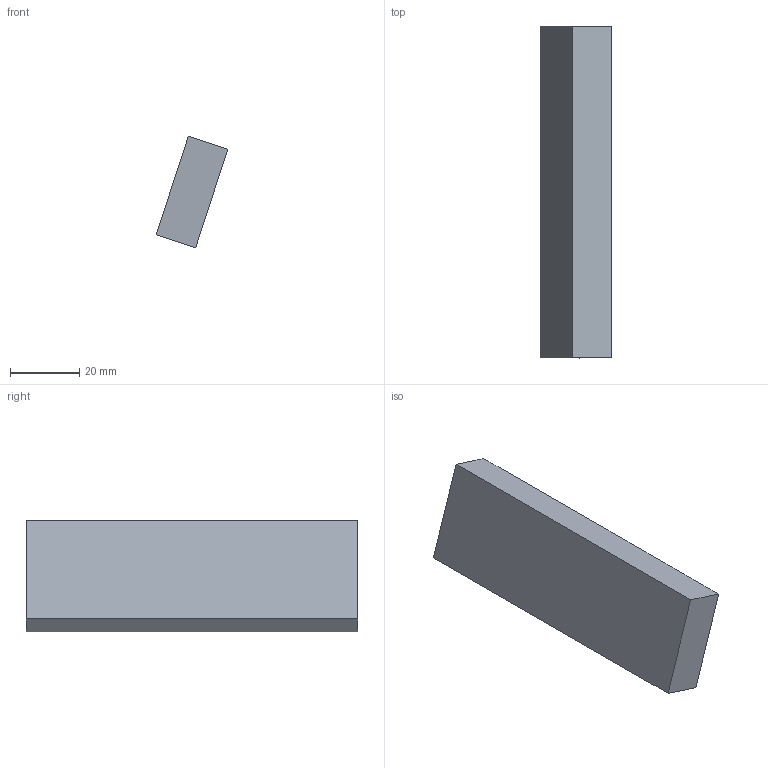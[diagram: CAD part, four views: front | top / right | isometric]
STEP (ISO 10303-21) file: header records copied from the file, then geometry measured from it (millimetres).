
FILE_DESCRIPTION(('Open CASCADE Model'),'2;1');
FILE_NAME('Open CASCADE Shape Model','2026-09-21T16:05:39',('Author'),( 'Open CASCADE'),'Open CASCADE STEP processor 7.8','Open CASCADE 7.8' ,'Unknown');
FILE_SCHEMA(('AUTOMOTIVE_DESIGN { 1 0 10303 214 1 1 1 1 }'));
Length unit declared in the file: millimetre
Products named in the file (1): Open CASCADE STEP translator 7.8 4
Bounding box: 20.68 x 96 x 32.24 mm (x, y, z)
Volume: 34560 mm3; surface area: 8784 mm2
Topology: 1 solids, 1 shells, 6 faces, 12 edges, 8 vertices
Faces by surface type: plane 6
Entity records: 322 total; most frequent: CARTESIAN_POINT 51, DIRECTION 50, LINE 36, VECTOR 36, ORIENTED_EDGE 24, PCURVE 24, DEFINITIONAL_REPRESENTATION 24, EDGE_CURVE 12
